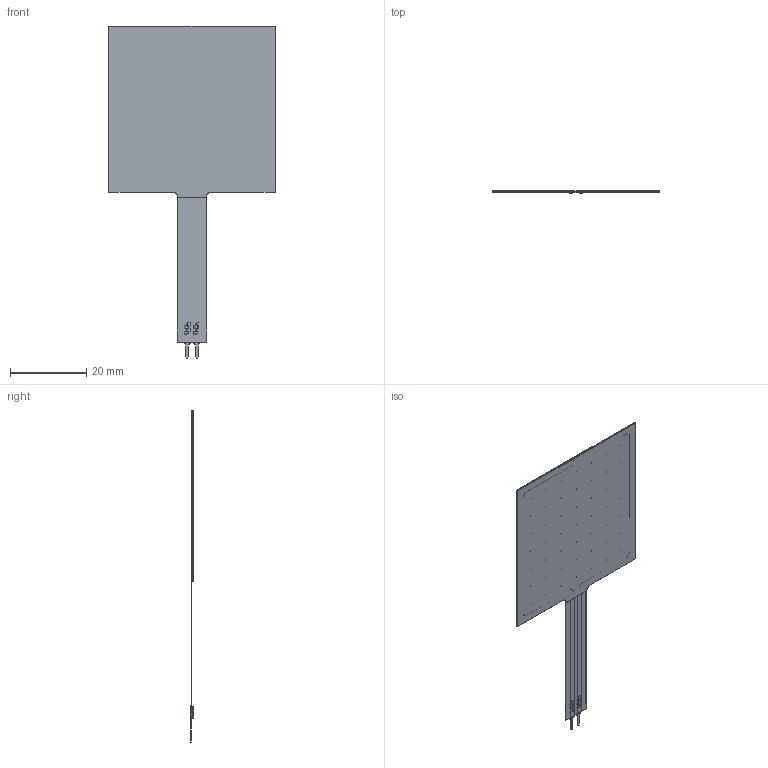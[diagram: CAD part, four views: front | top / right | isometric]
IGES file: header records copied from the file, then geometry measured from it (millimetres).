
Start section: SolidWorks IGES file using analytic representation for surfaces
Global section: file name: C:\Documents and Settings\jleonard\Desktop\34-00009-FSR 406.IGS; native system: SolidWorks 2008; preprocessor: SolidWorks 2008; author: jleonard; date: 110909.164534; units: millimetre
Bounding box: 43.69 x 0.85 x 87.24 mm (x, y, z)
Surface area: 19290.1 mm2 (no closed solid volume)
Topology: 0 solids, 0 shells, 792 faces, 5500 edges, 5500 vertices
Faces by surface type: bspline 622, revolution 170
